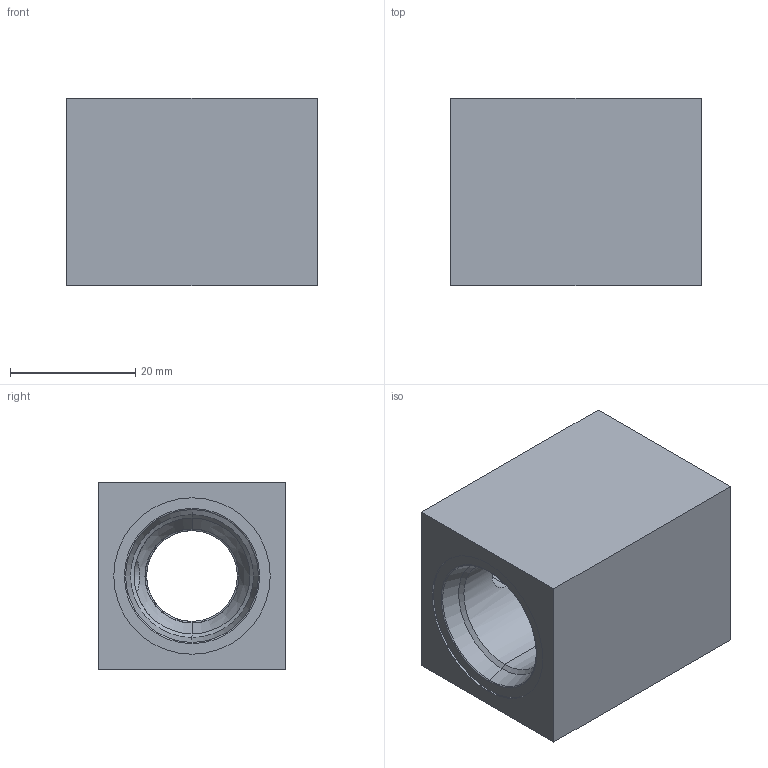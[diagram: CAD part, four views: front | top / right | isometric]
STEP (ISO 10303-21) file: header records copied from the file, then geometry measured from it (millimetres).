
FILE_DESCRIPTION (( 'STEP AP214' ), '1' );
FILE_NAME ('1-1353.4.STEP', '2017-04-26T06:53:29', ( '' ), ( '' ), 'SwSTEP 2.0', 'SolidWorks 2016', '' );
FILE_SCHEMA (( 'AUTOMOTIVE_DESIGN' ));
Length unit declared in the file: millimetre
Products named in the file (1): 1-1353.4
Bounding box: 40 x 30 x 30 mm (x, y, z)
Volume: 26495.3 mm3; surface area: 8367.4 mm2
Topology: 1 solids, 1 shells, 32 faces, 77 edges, 46 vertices
Faces by surface type: cylinder 12, cone 9, plane 7, torus 4
Entity records: 1128 total; most frequent: CARTESIAN_POINT 308, DIRECTION 168, ORIENTED_EDGE 154, EDGE_CURVE 77, AXIS2_PLACEMENT_3D 68, VERTEX_POINT 46, EDGE_LOOP 37, CIRCLE 35
